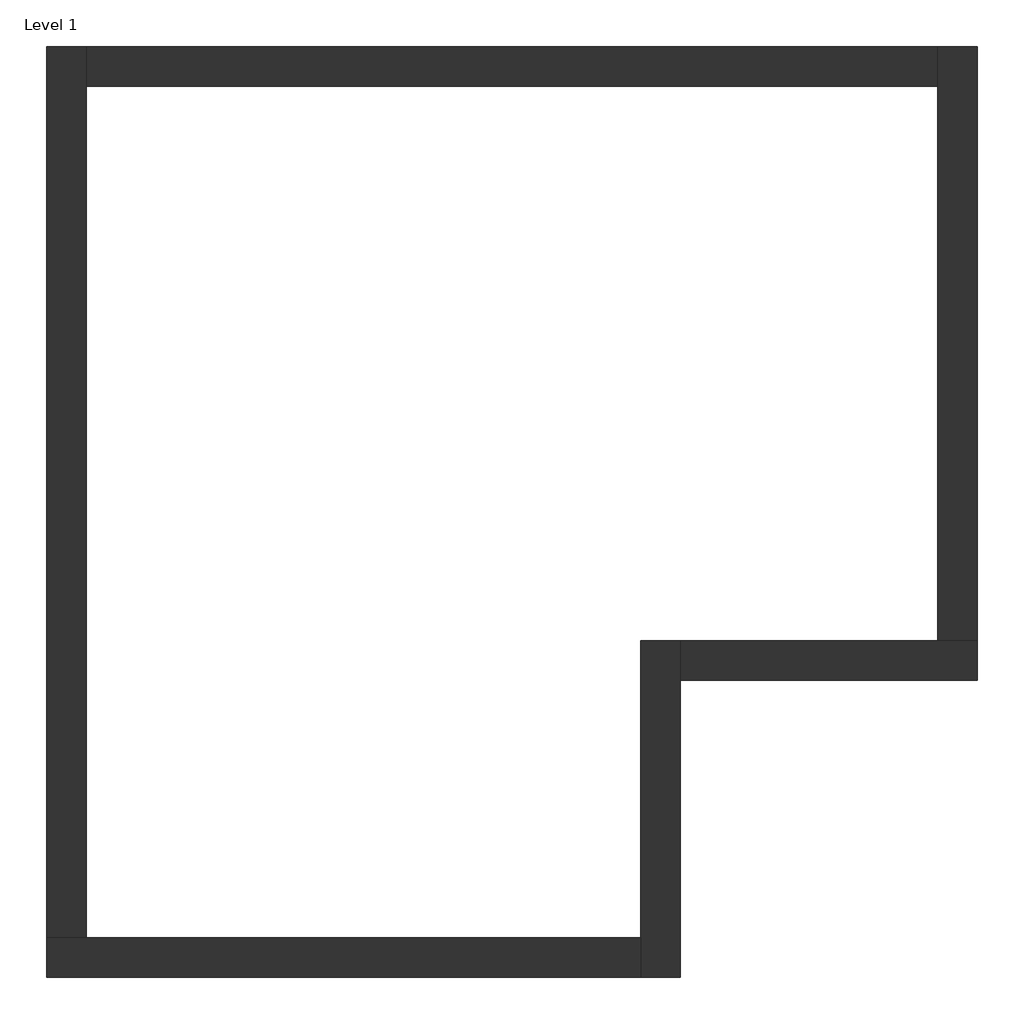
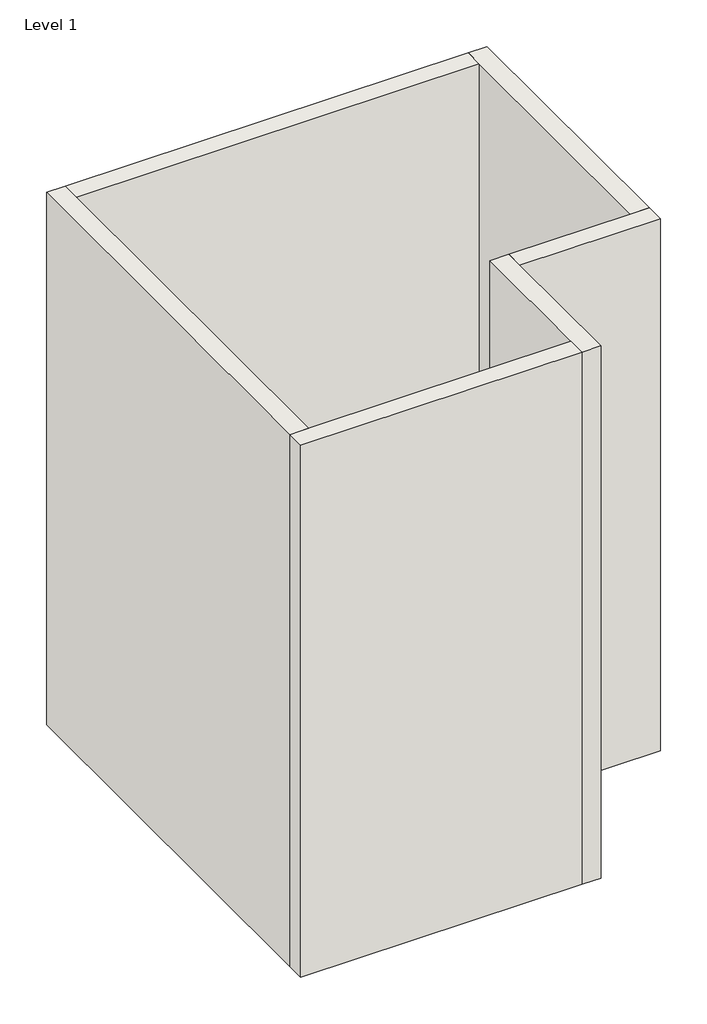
# One storey: 6 walls.
"""IFC4 building model written with IfcOpenShell, lengths in millimetres."""

from ifc_helpers import new_model, si_unit, origin, origin_with_axes, place, context, project, spatial, polyline, outline, extrude, faceted_brep, element, save

model = new_model("IFC4")

# Units and contexts
model_context = context("Model", 3, world=origin())
ifc_project = project(units=[si_unit("LENGTHUNIT", "METRE", prefix="MILLI")], contexts=[model_context])

# Site, building, storey
site = spatial("IfcSite", under=ifc_project)
building = spatial("IfcBuilding", under=site)
storey = spatial("IfcBuildingStorey", under=building, Name="Level 1", Elevation=0.0)

# Walls
placement = place(None, origin())
element("IfcWall", 1, ObjectType="Generic - 8\"", at=placement, inside=storey, context=model_context, shape_type="Brep", body=[
    faceted_brep([(4251.9122456, -2482.757364, 0.0), (4251.9122456, -4006.757364, 0.0), (4251.9122456, -4209.957364, 0.0), (4251.9122456, -4209.957364, 6096.0), (4251.9122456, -4006.757364, 6096.0), (4251.9122456, -2482.757364, 6096.0), (4455.1122456, -2482.757364, 0.0), (4455.1122456, -2482.757364, 6096.0), (4455.1122456, -2685.957364, 6096.0), (4455.1122456, -4209.957364, 6096.0), (4455.1122456, -4209.957364, 0.0), (4455.1122456, -2685.957364, 0.0)], [[[0, 1, 2, 3, 4, 5]], [[6, 7, 8, 9, 10, 11]], [[2, 1, 0, 6, 11, 10]], [[5, 4, 3, 9, 8, 7]], [[3, 2, 10, 9]], [[0, 5, 7, 6]]]),
])
element("IfcWall", 2, ObjectType="Generic - 8\"", at=placement, inside=storey, context=model_context, shape_type="Brep", body=[
    faceted_brep([(4251.9122456, -4006.757364, 0.0), (1407.1122456, -4006.757364, 0.0), (1203.9122456, -4006.757364, 0.0), (1203.9122456, -4006.757364, 6096.0), (1407.1122456, -4006.757364, 6096.0), (4251.9122456, -4006.757364, 6096.0), (4251.9122456, -4209.957364, 0.0), (4251.9122456, -4209.957364, 6096.0), (1203.9122456, -4209.957364, 6096.0), (1203.9122456, -4209.957364, 0.0)], [[[0, 1, 2, 3, 4, 5]], [[6, 7, 8, 9]], [[2, 1, 0, 6, 9]], [[5, 4, 3, 8, 7]], [[3, 2, 9, 8]], [[0, 5, 7, 6]]]),
])
element("IfcWall", 3, ObjectType="Generic - 8\"", at=placement, inside=storey, context=model_context, shape_type="Brep", body=[
    faceted_brep([(1407.1122456, -4006.757364, 0.0), (1407.1122456, 362.042636, 0.0), (1407.1122456, 565.242636, 0.0), (1407.1122456, 565.242636, 6096.0), (1407.1122456, 362.042636, 6096.0), (1407.1122456, -4006.757364, 6096.0), (1203.9122456, -4006.757364, 0.0), (1203.9122456, -4006.757364, 6096.0), (1203.9122456, 565.242636, 6096.0), (1203.9122456, 565.242636, 0.0)], [[[0, 1, 2, 3, 4, 5]], [[6, 7, 8, 9]], [[2, 1, 0, 6, 9]], [[5, 4, 3, 8, 7]], [[3, 2, 9, 8]], [[0, 5, 7, 6]]]),
])
element("IfcWall", 4, ObjectType="Generic - 8\"", at=placement, inside=storey, context=model_context, shape_type="Brep", body=[
    faceted_brep([(4455.1122456, -2685.957364, 0.0), (5979.1122456, -2685.957364, 0.0), (5979.1122456, -2685.957364, 6096.0), (4455.1122456, -2685.957364, 6096.0), (4455.1122456, -2482.757364, 0.0), (4455.1122456, -2482.757364, 6096.0), (5775.9122456, -2482.757364, 6096.0), (5979.1122456, -2482.757364, 6096.0), (5979.1122456, -2482.757364, 0.0), (5775.9122456, -2482.757364, 0.0)], [[[0, 1, 2, 3]], [[4, 5, 6, 7, 8, 9]], [[1, 0, 4, 9, 8]], [[3, 2, 7, 6, 5]], [[2, 1, 8, 7]], [[0, 3, 5, 4]]]),
])
element("IfcWall", 5, ObjectType="Generic - 8\"", at=placement, inside=storey, context=model_context, shape_type="Brep", body=[
    faceted_brep([(5979.1122456, -2482.757364, 0.0), (5979.1122456, 565.242636, 0.0), (5979.1122456, 565.242636, 6096.0), (5979.1122456, -2482.757364, 6096.0), (5775.9122456, -2482.757364, 0.0), (5775.9122456, -2482.757364, 6096.0), (5775.9122456, 362.042636, 6096.0), (5775.9122456, 565.242636, 6096.0), (5775.9122456, 565.242636, 0.0), (5775.9122456, 362.042636, 0.0)], [[[0, 1, 2, 3]], [[4, 5, 6, 7, 8, 9]], [[1, 0, 4, 9, 8]], [[3, 2, 7, 6, 5]], [[2, 1, 8, 7]], [[0, 3, 5, 4]]]),
])
element("IfcWall", 6, ObjectType="Generic - 8\"", at=placement, inside=storey, context=model_context, shape_type="SweptSolid", body=[
    extrude(outline(polyline([(1407.1122456, 565.242636), (5775.9122456, 565.242636), (5775.9122456, 362.042636), (1407.1122456, 362.042636), (1407.1122456, 565.242636)])), origin_with_axes(), (0.0, 0.0, 1.0), 6096.0),
])

save(model, "model.ifc")
